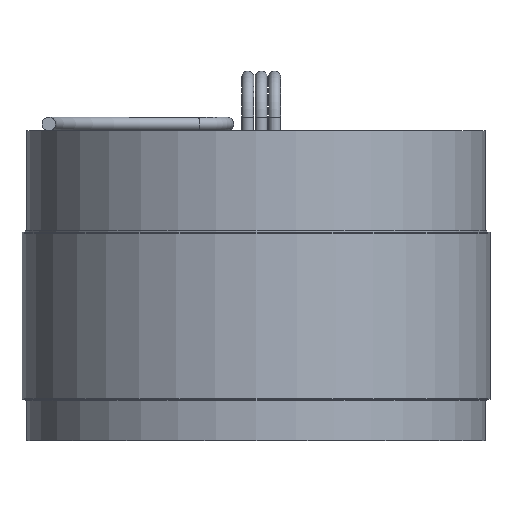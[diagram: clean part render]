
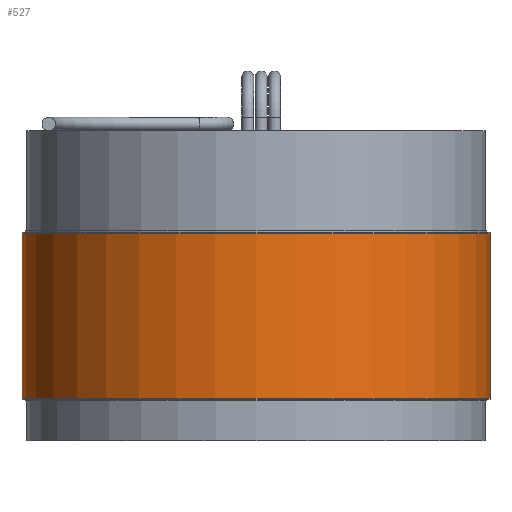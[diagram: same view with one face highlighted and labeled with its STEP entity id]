
A CAD part, front view. The second image highlights one B-rep face of the part: STEP entity #527.
In plain terms, the highlighted cylindrical face has radius 44.45 mm (diameter 88.9 mm), a full revolution.
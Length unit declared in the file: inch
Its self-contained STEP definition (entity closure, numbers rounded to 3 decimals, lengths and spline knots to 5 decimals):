
#8 = ORIENTED_EDGE ( 'NONE', *, *, #677, .T. ) ;
#15 = DIRECTION ( 'NONE',  ( 1., 0., 0. ) ) ;
#28 = CARTESIAN_POINT ( 'NONE',  ( 0., 0., 0.61713 ) ) ;
#85 = CARTESIAN_POINT ( 'NONE',  ( 1.75, 0., -0.61713 ) ) ;
#108 = CIRCLE ( 'NONE', #1166, 1.75 ) ;
#143 = ORIENTED_EDGE ( 'NONE', *, *, #857, .F. ) ;
#152 = DIRECTION ( 'NONE',  ( 1., 0., 0. ) ) ;
#191 = CARTESIAN_POINT ( 'NONE',  ( 0., 0., -0.635 ) ) ;
#240 = DIRECTION ( 'NONE',  ( 0., 0., 1. ) ) ;
#297 = DIRECTION ( 'NONE',  ( 1., 0., 0. ) ) ;
#416 = CARTESIAN_POINT ( 'NONE',  ( 1.75, 0., 0.61713 ) ) ;
#463 = AXIS2_PLACEMENT_3D ( 'NONE', #191, #1390, #297 ) ;
#527 = ADVANCED_FACE ( 'NONE', ( #535, #1183 ), #848, .T. ) ;
#535 = FACE_OUTER_BOUND ( 'NONE', #1200, .T. ) ;
#677 = EDGE_CURVE ( 'NONE', #1413, #1413, #1393, .T. ) ;
#848 = CYLINDRICAL_SURFACE ( 'NONE', #463, 1.75 ) ;
#857 = EDGE_CURVE ( 'NONE', #1343, #1343, #108, .T. ) ;
#887 = DIRECTION ( 'NONE',  ( 0., 0., 1. ) ) ;
#929 = EDGE_LOOP ( 'NONE', ( #8 ) ) ;
#1091 = AXIS2_PLACEMENT_3D ( 'NONE', #1327, #240, #152 ) ;
#1166 = AXIS2_PLACEMENT_3D ( 'NONE', #28, #887, #15 ) ;
#1183 = FACE_OUTER_BOUND ( 'NONE', #929, .T. ) ;
#1200 = EDGE_LOOP ( 'NONE', ( #143 ) ) ;
#1327 = CARTESIAN_POINT ( 'NONE',  ( 0., 0., -0.61713 ) ) ;
#1343 = VERTEX_POINT ( 'NONE', #416 ) ;
#1390 = DIRECTION ( 'NONE',  ( 0., 0., 1. ) ) ;
#1393 = CIRCLE ( 'NONE', #1091, 1.75 ) ;
#1413 = VERTEX_POINT ( 'NONE', #85 ) ;
